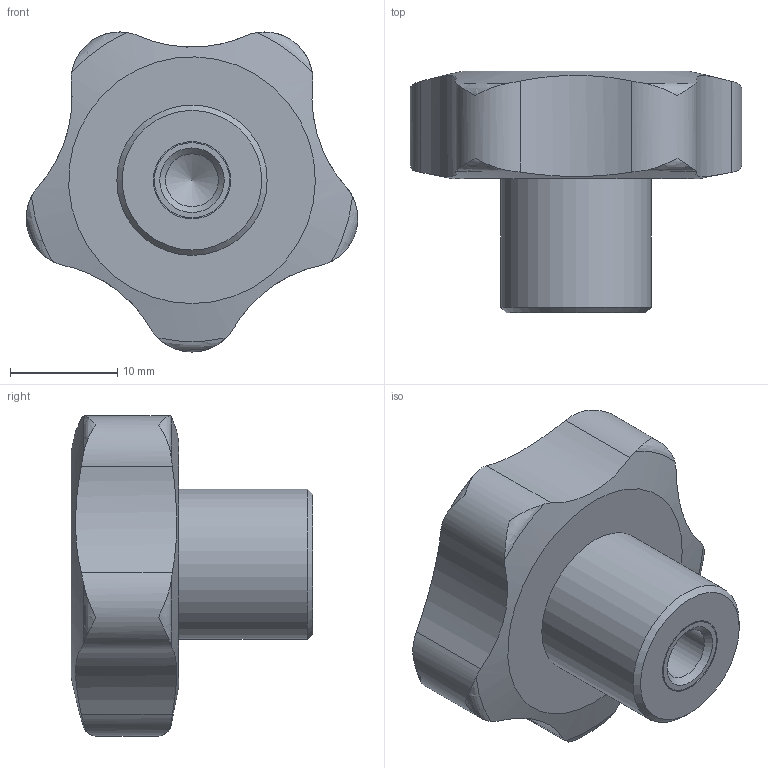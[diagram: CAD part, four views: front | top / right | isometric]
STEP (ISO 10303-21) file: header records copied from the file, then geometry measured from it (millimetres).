
FILE_DESCRIPTION( ( 'STEP AP203' ), '1' );
FILE_NAME( 'C:/Temp/Ganter_Step_05_03_2020/data/2_2/gn_5337_4/gn_5337_c/Star knobs Cleanline GN 5337.4-32-M6-WS.stp', '2020-03-05T12:09:36', ( 'License CC BY-ND 4.0' ), ( 'CADENAS' ), ' ', 'PARTsolutions', ' ' );
FILE_SCHEMA( ( 'CONFIG_CONTROL_DESIGN' ) );
Length unit declared in the file: millimetre
Products named in the file (1): _Star knobs Cleanline GN 5337.4-32-M6-WS
Bounding box: 30.87 x 22.5 x 29.8 mm (x, y, z)
Volume: 7586.3 mm3; surface area: 2816.4 mm2
Topology: 1 solids, 1 shells, 34 faces, 92 edges, 62 vertices
Faces by surface type: cylinder 14, torus 10, cone 4, plane 4, bspline 1, sphere 1
Full cylindrical faces by diameter (mm): 4.917 x1, 7 x1, 7.2 x1, 14 x1
Entity records: 1441 total; most frequent: CARTESIAN_POINT 675, ORIENTED_EDGE 154, DIRECTION 122, EDGE_CURVE 77, VERTEX_POINT 59, AXIS2_PLACEMENT_3D 56, EDGE_LOOP 46, B_SPLINE_CURVE_WITH_KNOTS 45
